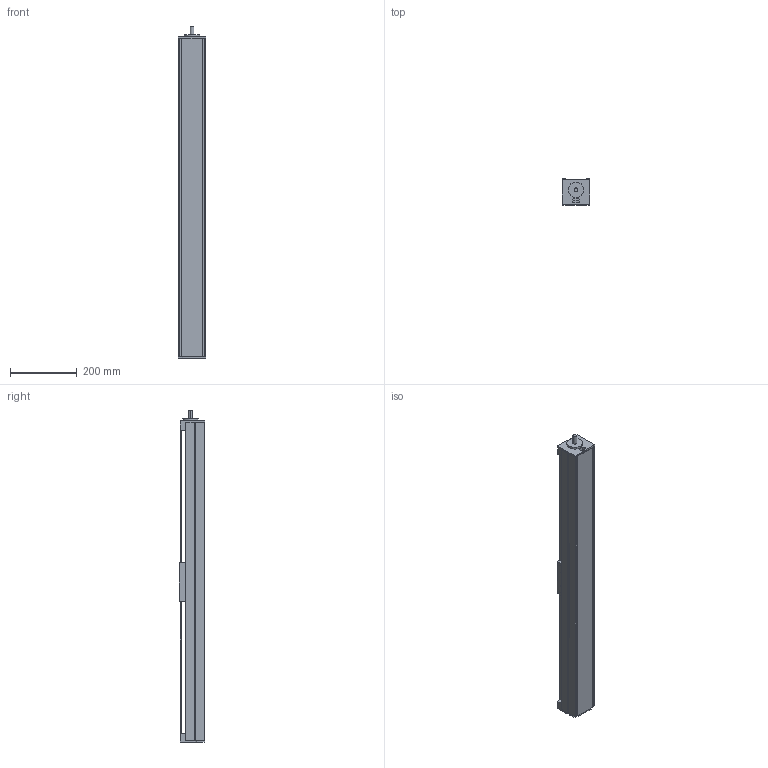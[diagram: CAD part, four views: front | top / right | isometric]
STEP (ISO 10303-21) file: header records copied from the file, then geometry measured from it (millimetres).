
FILE_DESCRIPTION (( 'STEP AP203' ), '1' );
FILE_NAME ('MSX84C-800-LL2010-P7标准面板.STEP', '2013-11-02T03:18:08', ( '微软用户' ), ( '微软中国' ), 'SwSTEP 2.0', 'SolidWorks 2010', '' );
FILE_SCHEMA (( 'CONFIG_CONTROL_DESIGN' ));
Length unit declared in the file: millimetre
Products named in the file (1): MSX84C-800-LL2010-P7梓袧醱啣
Bounding box: 84 x 78 x 998 mm (x, y, z)
Volume: 2603751.9 mm3; surface area: 704950.8 mm2
Topology: 3 solids, 3 shells, 176 faces, 489 edges, 306 vertices
Faces by surface type: plane 128, cylinder 32, cone 16
Entity records: 5506 total; most frequent: CARTESIAN_POINT 956, ORIENTED_EDGE 946, DIRECTION 891, EDGE_CURVE 473, VECTOR 409, LINE 409, VERTEX_POINT 306, AXIS2_PLACEMENT_3D 241
